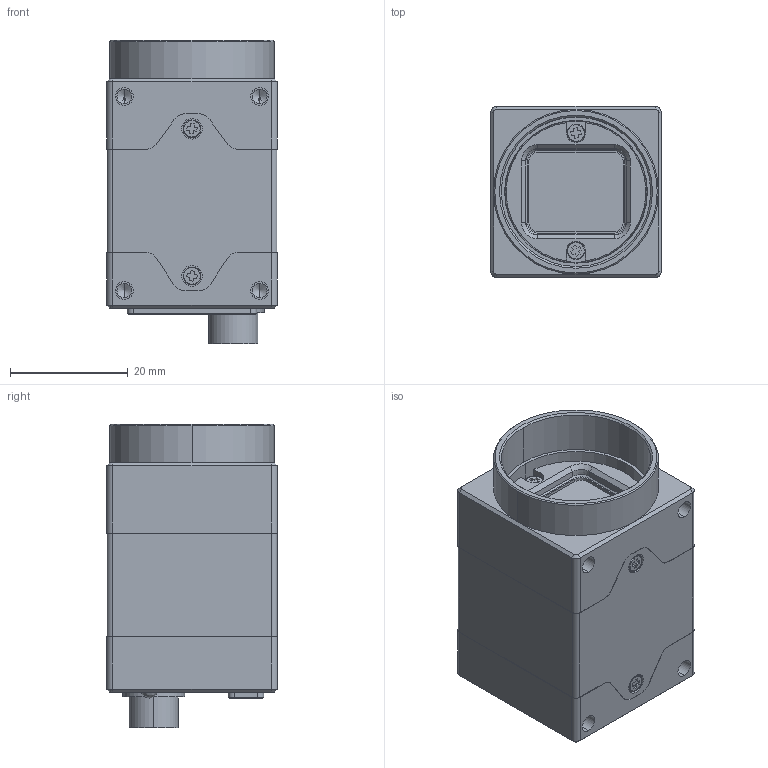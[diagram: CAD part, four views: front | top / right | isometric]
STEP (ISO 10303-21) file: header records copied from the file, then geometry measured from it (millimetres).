
FILE_DESCRIPTION (( 'STEP AP203' ), '1' );
FILE_NAME ('BFS-XL-02-R0.STEP', '2018-12-24T20:31:32', ( '' ), ( '' ), 'SwSTEP 2.0', 'SolidWorks 2017', '' );
FILE_SCHEMA (( 'CONFIG_CONTROL_DESIGN' ));
Length unit declared in the file: millimetre
Products named in the file (1): BFS-XL-02-R0
Bounding box: 29 x 29 x 51.51 mm (x, y, z)
Volume: 31306.1 mm3; surface area: 8709 mm2
Topology: 1 solids, 1 shells, 408 faces, 1032 edges, 656 vertices
Faces by surface type: plane 213, cylinder 127, cone 55, bspline 13
Entity records: 12389 total; most frequent: CARTESIAN_POINT 2370, DIRECTION 2125, ORIENTED_EDGE 2032, EDGE_CURVE 1016, AXIS2_PLACEMENT_3D 731, LINE 663, VECTOR 663, VERTEX_POINT 656
